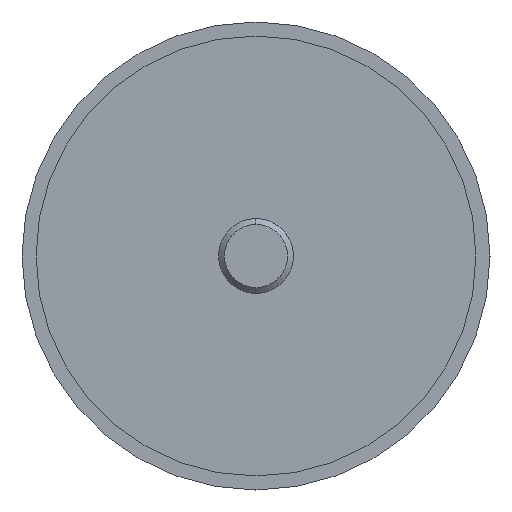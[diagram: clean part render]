
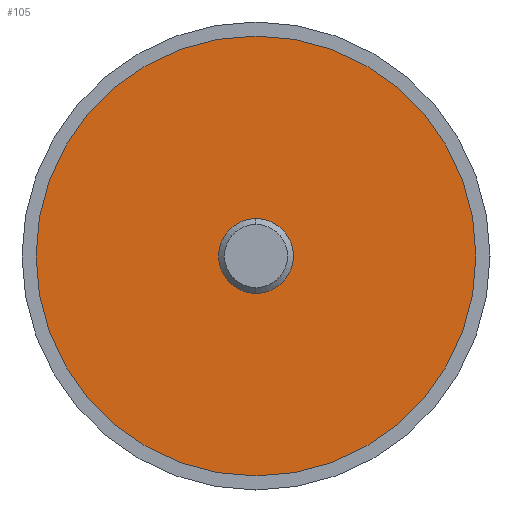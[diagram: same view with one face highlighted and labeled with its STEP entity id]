
A CAD part, left-side view. The second image highlights one B-rep face of the part: STEP entity #105.
In plain terms, the highlighted planar face has unit normal (-1, 0, 0).
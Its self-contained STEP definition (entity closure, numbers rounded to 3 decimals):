
#15 = VERTEX_POINT ( 'NONE', #672 ) ;
#27 = ORIENTED_EDGE ( 'NONE', *, *, #293, .T. ) ;
#34 = CARTESIAN_POINT ( 'NONE',  ( -29.99, 0., -47. ) ) ;
#39 = DIRECTION ( 'NONE',  ( 0., 0., -1. ) ) ;
#45 = DIRECTION ( 'NONE',  ( 0., 0., -1. ) ) ;
#46 = EDGE_CURVE ( 'NONE', #15, #59, #296, .T. ) ;
#53 = AXIS2_PLACEMENT_3D ( 'NONE', #244, #513, #99 ) ;
#59 = VERTEX_POINT ( 'NONE', #466 ) ;
#63 = CIRCLE ( 'NONE', #53, 8. ) ;
#99 = DIRECTION ( 'NONE',  ( 0., 0., -1. ) ) ;
#105 = ADVANCED_FACE ( 'NONE', ( #315, #170 ), #519, .F. ) ;
#109 = DIRECTION ( 'NONE',  ( 1., 0., 0. ) ) ;
#123 = ORIENTED_EDGE ( 'NONE', *, *, #608, .F. ) ;
#130 = DIRECTION ( 'NONE',  ( 0., 0., 1. ) ) ;
#152 = DIRECTION ( 'NONE',  ( -1., 0., 0. ) ) ;
#170 = FACE_BOUND ( 'NONE', #546, .T. ) ;
#181 = EDGE_LOOP ( 'NONE', ( #27, #300 ) ) ;
#197 = CIRCLE ( 'NONE', #514, 47. ) ;
#224 = VERTEX_POINT ( 'NONE', #642 ) ;
#230 = EDGE_CURVE ( 'NONE', #602, #224, #197, .T. ) ;
#244 = CARTESIAN_POINT ( 'NONE',  ( -29.99, 0., 0. ) ) ;
#293 = EDGE_CURVE ( 'NONE', #224, #602, #582, .T. ) ;
#296 = CIRCLE ( 'NONE', #375, 8. ) ;
#300 = ORIENTED_EDGE ( 'NONE', *, *, #230, .T. ) ;
#315 = FACE_OUTER_BOUND ( 'NONE', #181, .T. ) ;
#322 = ORIENTED_EDGE ( 'NONE', *, *, #46, .F. ) ;
#338 = CARTESIAN_POINT ( 'NONE',  ( -29.99, 0., 0. ) ) ;
#375 = AXIS2_PLACEMENT_3D ( 'NONE', #667, #152, #39 ) ;
#384 = DIRECTION ( 'NONE',  ( -1., 0., 0. ) ) ;
#400 = CARTESIAN_POINT ( 'NONE',  ( -29.99, 0., 0. ) ) ;
#458 = DIRECTION ( 'NONE',  ( -1., 0., 0. ) ) ;
#466 = CARTESIAN_POINT ( 'NONE',  ( -29.99, 0., -8. ) ) ;
#473 = CARTESIAN_POINT ( 'NONE',  ( -29.99, 47., 0. ) ) ;
#513 = DIRECTION ( 'NONE',  ( -1., 0., 0. ) ) ;
#514 = AXIS2_PLACEMENT_3D ( 'NONE', #338, #384, #130 ) ;
#519 = PLANE ( 'NONE',  #615 ) ;
#538 = AXIS2_PLACEMENT_3D ( 'NONE', #400, #458, #612 ) ;
#546 = EDGE_LOOP ( 'NONE', ( #322, #123 ) ) ;
#582 = CIRCLE ( 'NONE', #538, 47. ) ;
#602 = VERTEX_POINT ( 'NONE', #34 ) ;
#608 = EDGE_CURVE ( 'NONE', #59, #15, #63, .T. ) ;
#612 = DIRECTION ( 'NONE',  ( 0., 0., 1. ) ) ;
#615 = AXIS2_PLACEMENT_3D ( 'NONE', #473, #109, #45 ) ;
#642 = CARTESIAN_POINT ( 'NONE',  ( -29.99, 0., 47. ) ) ;
#667 = CARTESIAN_POINT ( 'NONE',  ( -29.99, 0., 0. ) ) ;
#672 = CARTESIAN_POINT ( 'NONE',  ( -29.99, 0., 8. ) ) ;
